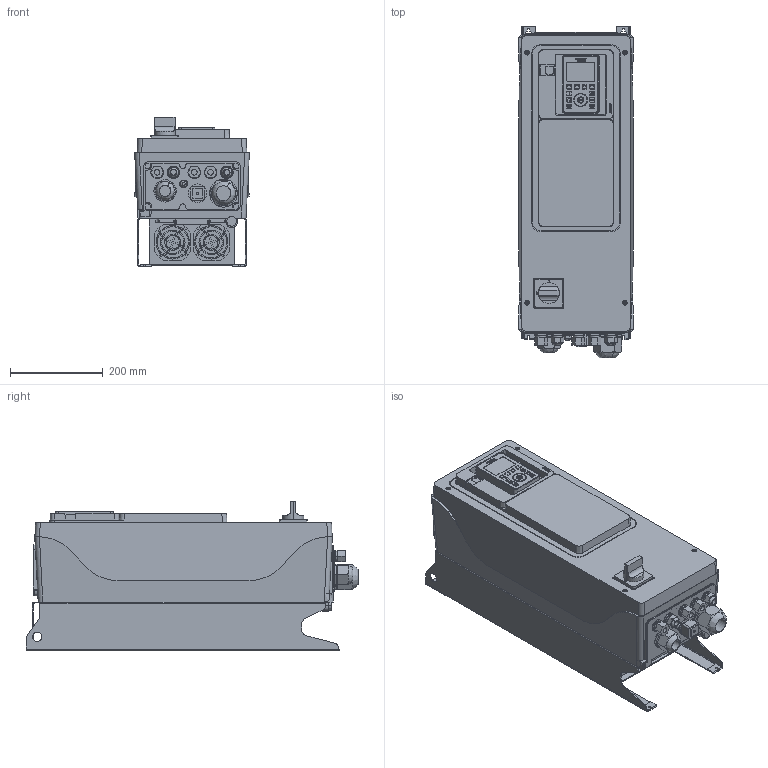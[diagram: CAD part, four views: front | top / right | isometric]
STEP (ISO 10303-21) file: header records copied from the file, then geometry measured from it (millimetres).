
FILE_DESCRIPTION(('STEP AP242'),'1');
FILE_NAME('atv650d11n4e.stp','2018-11-20T18:15:25',('TraceParts'),('TraceParts S.A.'),'Spatial InterOp 3D',' ',' ');
FILE_SCHEMA(('AP242_MANAGED_MODEL_BASED_3D_ENGINEERING_MIM_LF {1 0 10303 442 1 1 4}'));
Length unit declared in the file: millimetre
Products named in the file (1): atv650d11n4e_1
Bounding box: 247.29 x 715.5 x 322.2 mm (x, y, z)
Volume: 36338100.3 mm3; surface area: 1916078.5 mm2
Topology: 4 solids, 4 shells, 2450 faces, 6641 edges, 4362 vertices
Faces by surface type: plane 1115, extrusion 660, cylinder 628, revolution 21, bspline 18, cone 8
Entity records: 92403 total; most frequent: CARTESIAN_POINT 32610, ORIENTED_EDGE 13282, DIRECTION 10594, EDGE_CURVE 6641, VERTEX_POINT 4362, VECTOR 4207, LINE 3547, AXIS2_PLACEMENT_3D 3183
